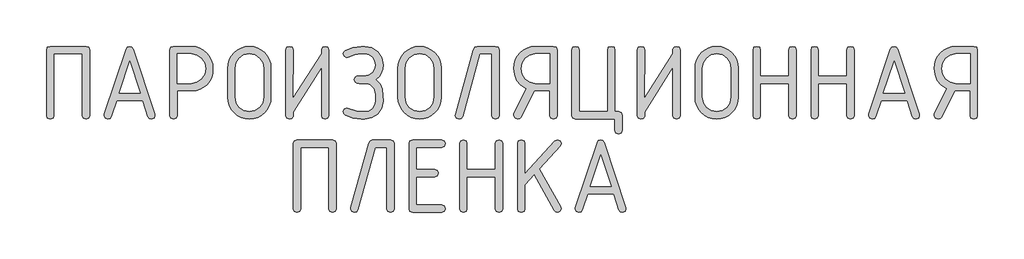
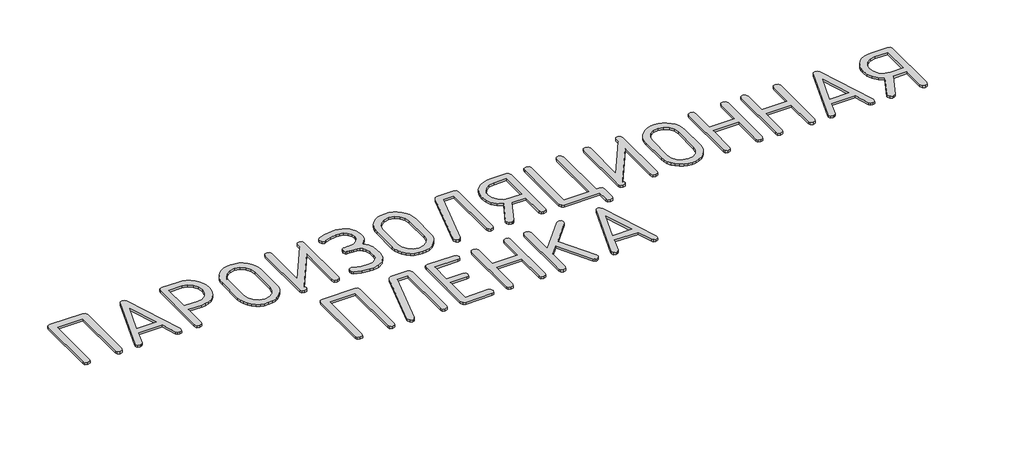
# One storey, part 12 of 42: 1 proxy.
"""IFC4 building model written with IfcOpenShell, lengths in millimetres."""

from ifc_helpers import new_model, si_unit, origin, origin_with_axes, place, context, project, spatial, polyline, outline, extrude, element, save

model = new_model("IFC4")

# Units and contexts
model_context = context("Model", 3, world=origin())
ifc_project = project(units=[si_unit("LENGTHUNIT", "METRE", prefix="MILLI")], contexts=[model_context])

# Site, building, storey
site = spatial("IfcSite", under=ifc_project)
building = spatial("IfcBuilding", under=site)
storey = spatial("IfcBuildingStorey", under=building, Name="Этаж 01", Elevation=0.0)

# Proxy
placement = place(None, origin())
element("IfcBuildingElementProxy", 1, Name="300 мм GOST Common", ObjectType="300 мм GOST Common", at=placement, inside=storey, context=model_context, shape_type="SweptSolid", body=[
    extrude(outline(polyline([(-13719.172933, -44163.4114531), (-13568.5825603, -44163.4114531), (-13557.2640716, -44167.2246338), (-13553.4912421, -44178.6641758), (-13553.4912421, -44452.8903743), (-13557.3649494, -44464.3299163), (-13568.9860714, -44468.143097), (-13580.6071935, -44464.3500919), (-13584.4809008, -44452.9710766), (-13584.4809008, -44194.4011118), (-13703.2745925, -44194.4011118), (-13703.2745925, -44452.9710766), (-13707.1482998, -44464.3500919), (-13718.7694218, -44468.143097), (-13730.3905438, -44464.3299163), (-13734.2642512, -44452.8903743), (-13734.2642512, -44178.6641758), (-13730.4914216, -44167.2246338), (-13719.172933, -44163.4114531)])), origin_with_axes(), (0.0, 0.0, 1.0), 10.0),
    extrude(outline(polyline([(-13280.0720659, -44452.8903743), (-13283.865071, -44464.3299163), (-13295.2440863, -44468.143097), (-13304.3836145, -44465.5000987), (-13309.6897865, -44457.571104), (-13331.4793903, -44390.6689502), (-13440.7502181, -44390.6689502), (-13462.6205241, -44457.571104), (-13467.9266962, -44465.5000987), (-13477.0662244, -44468.143097), (-13488.4452397, -44464.3299163), (-13492.2382448, -44452.8903743), (-13491.5119247, -44448.0482402), (-13401.2868246, -44175.678193), (-13395.4359125, -44166.4781381), (-13386.1148042, -44163.4114531), (-13376.9147493, -44166.3570847), (-13371.2655928, -44175.1939796), (-13280.798386, -44448.0482402), (-13280.0720659, -44452.8903743)]), holes=[polyline([(-13386.1148042, -44226.0363884), (-13430.6624386, -44359.6792915), (-13341.6478721, -44359.6792915), (-13386.1148042, -44226.0363884)])]), origin_with_axes(), (0.0, 0.0, 1.0), 10.0),
    extrude(outline(polyline([(-13202.6786214, -44163.4114531), (-13127.383435, -44163.4114531), (-13109.2481293, -44165.1062001), (-13092.5301567, -44170.190441), (-13077.2295171, -44178.6641758), (-13063.3462106, -44190.5274045), (-13051.8184005, -44204.8117003), (-13043.5842505, -44220.5486363), (-13038.6437605, -44237.7382126), (-13036.9969304, -44256.3804292), (-13038.5580143, -44276.0717748), (-13043.241266, -44293.8262668), (-13051.0466854, -44309.6439051), (-13061.9742725, -44323.5246897), (-13075.3985851, -44334.8230028), (-13090.6941809, -44342.8932264), (-13107.8610597, -44347.7353606), (-13126.8992216, -44349.3494053), (-13186.7802808, -44349.3494053), (-13186.7802808, -44453.2938855), (-13190.6539882, -44464.4307941), (-13202.2751102, -44468.143097), (-13213.8962322, -44464.3299163), (-13217.7699395, -44452.8903743), (-13217.7699395, -44178.6641758), (-13213.99711, -44167.2246338), (-13202.6786214, -44163.4114531)]), holes=[polyline([(-13186.7802808, -44194.4011118), (-13186.7802808, -44318.3597466), (-13127.383435, -44318.3597466), (-13104.3732099, -44313.8706847), (-13085.2165166, -44300.4034991), (-13072.294071, -44280.4196078), (-13067.9865891, -44256.3804292), (-13072.294071, -44232.3412506), (-13085.2165166, -44212.3573594), (-13104.3732099, -44198.8901737), (-13127.383435, -44194.4011118), (-13186.7802808, -44194.4011118)])]), origin_with_axes(), (0.0, 0.0, 1.0), 10.0),
    extrude(outline(polyline([(-12794.244604, -44376.7074634), (-12795.8989998, -44394.9411249), (-12800.8621873, -44411.7927606), (-12809.1341665, -44427.2623705), (-12820.7149374, -44441.3499546), (-12834.6360732, -44453.0719544), (-12849.9291469, -44461.4448114), (-12866.5941587, -44466.4685256), (-12884.6311085, -44468.143097), (-12902.6680583, -44466.4685256), (-12919.3330701, -44461.4448114), (-12934.6261438, -44453.0719544), (-12948.5472796, -44441.3499546), (-12960.1280505, -44427.2623705), (-12968.4000297, -44411.7927606), (-12973.3632172, -44394.9411249), (-12975.017613, -44376.7074634), (-12975.017613, -44254.8470867), (-12973.3632172, -44236.6134252), (-12968.4000297, -44219.7617895), (-12960.1280505, -44204.2921796), (-12948.5472796, -44190.2045955), (-12934.6261438, -44178.4825957), (-12919.3330701, -44170.1097387), (-12902.6680583, -44165.0860245), (-12884.6311085, -44163.4114531), (-12866.4958029, -44165.0784587), (-12849.7778303, -44170.0794754), (-12834.4771907, -44178.4145032), (-12820.5938841, -44190.0835422), (-12809.066074, -44204.1332971), (-12800.831924, -44219.6104728), (-12795.891434, -44236.5150694), (-12794.244604, -44254.8470867), (-12794.244604, -44376.7074634)]), holes=[polyline([(-12825.2342627, -44376.4653567), (-12825.2342627, -44255.0891934), (-12829.5417445, -44231.5644916), (-12842.4641901, -44211.9941993), (-12861.6208834, -44198.7993837), (-12884.6311085, -44194.4011118), (-12907.6413336, -44198.7993837), (-12926.7980269, -44211.9941993), (-12939.7204725, -44231.5644916), (-12944.0279543, -44255.0891934), (-12944.0279543, -44376.4653567), (-12939.7204725, -44399.9900585), (-12926.7980269, -44419.5603508), (-12907.6413336, -44432.7551664), (-12884.6311085, -44437.1534383), (-12861.6208834, -44432.7551664), (-12842.4641901, -44419.5603508), (-12829.5417445, -44399.9900585), (-12825.2342627, -44376.4653567)])]), origin_with_axes(), (0.0, 0.0, 1.0), 10.0),
    extrude(outline(polyline([(-12567.4713203, -44163.4114531), (-12555.4870382, -44167.2246338), (-12551.4922775, -44178.6641758), (-12551.4922775, -44452.8903743), (-12555.3659848, -44464.3299163), (-12566.9871068, -44468.143097), (-12578.6082289, -44464.3299163), (-12582.4819362, -44452.8903743), (-12582.4819362, -44249.7628458), (-12701.2756279, -44437.6376517), (-12701.2756279, -44457.4904018), (-12706.4809221, -44465.4799232), (-12716.2862438, -44468.143097), (-12728.2705259, -44464.3299163), (-12732.2652866, -44452.8903743), (-12732.2652866, -44178.6641758), (-12728.3915792, -44167.2246338), (-12716.7704572, -44163.4114531), (-12705.1493352, -44167.2246338), (-12701.2756279, -44178.6641758), (-12702.1633525, -44381.7917043), (-12582.4819362, -44193.9168984), (-12582.4819362, -44174.0641483), (-12577.276642, -44166.0746269), (-12567.4713203, -44163.4114531)])), origin_with_axes(), (0.0, 0.0, 1.0), 10.0),
    extrude(outline(polyline([(-12415.8318184, -44194.4011118), (-12442.4433808, -44197.7300791), (-12469.4988055, -44207.7169808), (-12476.4391978, -44209.5731322), (-12487.0111908, -44204.9731048), (-12491.6112182, -44194.4011118), (-12489.4120823, -44186.5729949), (-12482.8146745, -44180.5203272), (-12451.3811535, -44167.6886716), (-12415.8318184, -44163.4114531), (-12400.659798, -44163.4114531), (-12371.4355008, -44169.0606096), (-12346.7103531, -44186.0080792), (-12329.8536736, -44210.9854213), (-12324.2347804, -44240.7241954), (-12326.1312829, -44259.0284713), (-12331.8207906, -44275.4463325), (-12341.3033033, -44289.9777789), (-12354.5788212, -44302.6228105), (-12336.8041537, -44320.901867), (-12327.0593586, -44342.9739286), (-12324.2347804, -44392.9286128), (-12329.8536736, -44421.8502767), (-12346.7103531, -44446.1517376), (-12371.4355008, -44462.6452571), (-12400.659798, -44468.143097), (-12415.8318184, -44468.143097), (-12450.9372912, -44463.8658785), (-12482.8146745, -44451.0342229), (-12489.4120823, -44445.1026086), (-12491.6112182, -44437.1534383), (-12487.1322441, -44426.460392), (-12476.4391978, -44421.9814179), (-12469.4988055, -44423.8375693), (-12436.0073775, -44435.2972869), (-12400.659798, -44437.1534383), (-12383.0767983, -44433.9253488), (-12368.4192547, -44424.2410805), (-12358.523143, -44409.896258), (-12355.2244391, -44392.6865061), (-12355.2244391, -44363.0687855), (-12361.1964045, -44340.7949683), (-12369.0144337, -44330.9795588), (-12379.1526521, -44323.968552), (-12391.6110598, -44319.761948), (-12406.3896568, -44318.3597466), (-12415.5897117, -44318.3597466), (-12424.3055533, -44318.3597466), (-12435.0490384, -44317.2400031), (-12441.6161829, -44313.8807725), (-12446.095157, -44302.9456195), (-12441.5354807, -44291.9701154), (-12435.1297407, -44288.5200948), (-12425.0318734, -44287.3700879), (-12416.033574, -44287.3700879), (-12405.9861456, -44287.3700879), (-12384.7110186, -44283.9402429), (-12368.6613614, -44273.6507078), (-12358.5836696, -44258.5795651), (-12355.2244391, -44240.8048976), (-12358.5534063, -44222.9999668), (-12368.540308, -44207.9994386), (-12383.228115, -44197.8006935), (-12400.659798, -44194.4011118), (-12415.8318184, -44194.4011118)])), origin_with_axes(), (0.0, 0.0, 1.0), 10.0),
    extrude(outline(polyline([(-12081.4824539, -44376.7074634), (-12083.1368497, -44394.9411249), (-12088.1000373, -44411.7927606), (-12096.3720165, -44427.2623705), (-12107.9527874, -44441.3499546), (-12121.8739231, -44453.0719544), (-12137.1669969, -44461.4448114), (-12153.8320086, -44466.4685256), (-12171.8689584, -44468.143097), (-12189.9059082, -44466.4685256), (-12206.57092, -44461.4448114), (-12221.8639938, -44453.0719544), (-12235.7851295, -44441.3499546), (-12247.3659004, -44427.2623705), (-12255.6378796, -44411.7927606), (-12260.6010671, -44394.9411249), (-12262.255463, -44376.7074634), (-12262.255463, -44254.8470867), (-12260.6010671, -44236.6134252), (-12255.6378796, -44219.7617895), (-12247.3659004, -44204.2921796), (-12235.7851295, -44190.2045955), (-12221.8639938, -44178.4825957), (-12206.57092, -44170.1097387), (-12189.9059082, -44165.0860245), (-12171.8689584, -44163.4114531), (-12153.7336528, -44165.0784587), (-12137.0156802, -44170.0794754), (-12121.7150406, -44178.4145032), (-12107.831734, -44190.0835422), (-12096.303924, -44204.1332971), (-12088.0697739, -44219.6104728), (-12083.1292839, -44236.5150694), (-12081.4824539, -44254.8470867), (-12081.4824539, -44376.7074634)]), holes=[polyline([(-12112.4721126, -44376.4653567), (-12112.4721126, -44255.0891934), (-12116.7795944, -44231.5644916), (-12129.70204, -44211.9941993), (-12148.8587333, -44198.7993837), (-12171.8689584, -44194.4011118), (-12194.8791835, -44198.7993837), (-12214.0358768, -44211.9941993), (-12226.9583224, -44231.5644916), (-12231.2658043, -44255.0891934), (-12231.2658043, -44376.4653567), (-12226.9583224, -44399.9900585), (-12214.0358768, -44419.5603508), (-12194.8791835, -44432.7551664), (-12171.8689584, -44437.1534383), (-12148.8587333, -44432.7551664), (-12129.70204, -44419.5603508), (-12116.7795944, -44399.9900585), (-12112.4721126, -44376.4653567)])]), origin_with_axes(), (0.0, 0.0, 1.0), 10.0),
    extrude(outline(polyline([(-11930.8113789, -44163.4114531), (-11854.2249568, -44163.4114531), (-11842.6038348, -44167.2246338), (-11838.7301274, -44178.6641758), (-11838.7301274, -44452.8903743), (-11842.6038348, -44464.3299163), (-11854.2249568, -44468.143097), (-11865.8460788, -44464.3500919), (-11869.7197861, -44452.9710766), (-11869.7197861, -44194.4011118), (-11918.867448, -44194.4011118), (-11991.660865, -44457.571104), (-11996.7652814, -44465.5000987), (-12006.1065653, -44468.143097), (-12017.4855806, -44464.3299163), (-12021.2785857, -44452.8903743), (-12020.0680521, -44447.4026223), (-11945.9833993, -44178.6641758), (-11940.0921361, -44167.2246338), (-11930.8113789, -44163.4114531)])), origin_with_axes(), (0.0, 0.0, 1.0), 10.0),
    extrude(outline(polyline([(-11723.9715475, -44339.8265414), (-11747.193616, -44326.1878635), (-11764.5647724, -44306.0930067), (-11773.7043006, -44282.0639159), (-11776.75081, -44254.8470867), (-11775.0964142, -44236.6134252), (-11770.1332267, -44219.7617895), (-11761.8612474, -44204.2921796), (-11750.2804765, -44190.2045955), (-11736.3593408, -44178.4825957), (-11721.066267, -44170.1097387), (-11704.4012553, -44165.0860245), (-11686.3643055, -44163.4114531), (-11611.0691191, -44163.4114531), (-11599.7506305, -44167.2246338), (-11595.9778009, -44178.6641758), (-11595.9778009, -44452.8903743), (-11599.8515083, -44464.3299163), (-11611.4726303, -44468.143097), (-11623.0937523, -44464.4307941), (-11626.9674596, -44453.2938855), (-11626.9674596, -44349.3494053), (-11691.2871419, -44349.3494053), (-11745.7611513, -44459.8307667), (-11751.7936435, -44466.0650144), (-11760.5296605, -44468.143097), (-11771.8279736, -44463.5430695), (-11776.75081, -44452.8903743), (-11776.75081, -44445.949982), (-11723.9715475, -44339.8265414)]), holes=[polyline([(-11626.9674596, -44194.4011118), (-11686.3643055, -44194.4011118), (-11709.3745306, -44198.8901737), (-11728.5312239, -44212.3573594), (-11741.4536695, -44232.3412506), (-11745.7611513, -44256.3804292), (-11741.4536695, -44280.4196078), (-11728.5312239, -44300.4034991), (-11709.3745306, -44313.8706847), (-11686.3643055, -44318.3597466), (-11626.9674596, -44318.3597466), (-11626.9674596, -44194.4011118)])]), origin_with_axes(), (0.0, 0.0, 1.0), 10.0),
    extrude(outline(polyline([(-11353.2254745, -44468.143097), (-11518.9071654, -44468.143097), (-11530.225654, -44464.3299163), (-11533.9984835, -44452.8903743), (-11533.9984835, -44178.6641758), (-11530.1247762, -44167.2246338), (-11518.5036542, -44163.4114531), (-11506.8825322, -44167.2044582), (-11503.0088248, -44178.5834735), (-11503.0088248, -44437.1534383), (-11384.2151332, -44437.1534383), (-11384.2151332, -44178.5834735), (-11380.3414258, -44167.2044582), (-11368.7203038, -44163.4114531), (-11357.0991818, -44167.2044582), (-11353.2254745, -44178.5834735), (-11353.2254745, -44437.1534383), (-11337.7306451, -44437.1534383), (-11326.1095231, -44441.0271456), (-11322.2358158, -44452.6482676), (-11322.2358158, -44514.627585), (-11326.1095231, -44526.248707), (-11337.7306451, -44530.1224144), (-11349.3517671, -44526.248707), (-11353.2254745, -44514.627585), (-11353.2254745, -44468.143097)])), origin_with_axes(), (0.0, 0.0, 1.0), 10.0),
    extrude(outline(polyline([(-11095.4625321, -44163.4114531), (-11083.47825, -44167.2246338), (-11079.4834893, -44178.6641758), (-11079.4834893, -44452.8903743), (-11083.3571966, -44464.3299163), (-11094.9783186, -44468.143097), (-11106.5994407, -44464.3299163), (-11110.473148, -44452.8903743), (-11110.473148, -44249.7628458), (-11229.2668397, -44437.6376517), (-11229.2668397, -44457.4904018), (-11234.4721339, -44465.4799232), (-11244.2774556, -44468.143097), (-11256.2617377, -44464.3299163), (-11260.2564984, -44452.8903743), (-11260.2564984, -44178.6641758), (-11256.382791, -44167.2246338), (-11244.761669, -44163.4114531), (-11233.140547, -44167.2246338), (-11229.2668397, -44178.6641758), (-11230.1545643, -44381.7917043), (-11110.473148, -44193.9168984), (-11110.473148, -44174.0641483), (-11105.2678538, -44166.0746269), (-11095.4625321, -44163.4114531)])), origin_with_axes(), (0.0, 0.0, 1.0), 10.0),
    extrude(outline(polyline([(-10836.7311628, -44376.7074634), (-10838.3855587, -44394.9411249), (-10843.3487462, -44411.7927606), (-10851.6207254, -44427.2623705), (-10863.2014963, -44441.3499546), (-10877.122632, -44453.0719544), (-10892.4157058, -44461.4448114), (-10909.0807176, -44466.4685256), (-10927.1176674, -44468.143097), (-10945.1546171, -44466.4685256), (-10961.8196289, -44461.4448114), (-10977.1127027, -44453.0719544), (-10991.0338384, -44441.3499546), (-11002.6146093, -44427.2623705), (-11010.8865885, -44411.7927606), (-11015.8497761, -44394.9411249), (-11017.5041719, -44376.7074634), (-11017.5041719, -44254.8470867), (-11015.8497761, -44236.6134252), (-11010.8865885, -44219.7617895), (-11002.6146093, -44204.2921796), (-10991.0338384, -44190.2045955), (-10977.1127027, -44178.4825957), (-10961.8196289, -44170.1097387), (-10945.1546171, -44165.0860245), (-10927.1176674, -44163.4114531), (-10908.9823617, -44165.0784587), (-10892.2643891, -44170.0794754), (-10876.9637495, -44178.4145032), (-10863.0804429, -44190.0835422), (-10851.5526329, -44204.1332971), (-10843.3184828, -44219.6104728), (-10838.3779928, -44236.5150694), (-10836.7311628, -44254.8470867), (-10836.7311628, -44376.7074634)]), holes=[polyline([(-10867.7208215, -44376.4653567), (-10867.7208215, -44255.0891934), (-10872.0283034, -44231.5644916), (-10884.9507489, -44211.9941993), (-10904.1074423, -44198.7993837), (-10927.1176674, -44194.4011118), (-10950.1278925, -44198.7993837), (-10969.2845858, -44211.9941993), (-10982.2070313, -44231.5644916), (-10986.5145132, -44255.0891934), (-10986.5145132, -44376.4653567), (-10982.2070313, -44399.9900585), (-10969.2845858, -44419.5603508), (-10950.1278925, -44432.7551664), (-10927.1176674, -44437.1534383), (-10904.1074423, -44432.7551664), (-10884.9507489, -44419.5603508), (-10872.0283034, -44399.9900585), (-10867.7208215, -44376.4653567)])]), origin_with_axes(), (0.0, 0.0, 1.0), 10.0),
    extrude(outline(polyline([(-10774.7518454, -44452.8903743), (-10774.7518454, -44178.6641758), (-10770.8781381, -44167.2246338), (-10759.2570161, -44163.4114531), (-10747.6358941, -44167.2851604), (-10743.7621867, -44178.9062825), (-10743.7621867, -44287.3700879), (-10624.968495, -44287.3700879), (-10624.968495, -44178.9062825), (-10621.0947877, -44167.2851604), (-10609.4736657, -44163.4114531), (-10597.8525437, -44167.2246338), (-10593.9788363, -44178.6641758), (-10593.9788363, -44452.8903743), (-10597.8525437, -44464.3299163), (-10609.4736657, -44468.143097), (-10621.0947877, -44464.390443), (-10624.968495, -44453.1324811), (-10624.968495, -44318.3597466), (-10743.7621867, -44318.3597466), (-10743.7621867, -44453.1324811), (-10747.6358941, -44464.390443), (-10759.2570161, -44468.143097), (-10770.8781381, -44464.3299163), (-10774.7518454, -44452.8903743)])), origin_with_axes(), (0.0, 0.0, 1.0), 10.0),
    extrude(outline(polyline([(-10531.9995189, -44452.8903743), (-10531.9995189, -44178.6641758), (-10528.1258116, -44167.2246338), (-10516.5046896, -44163.4114531), (-10504.8835676, -44167.2851604), (-10501.0098602, -44178.9062825), (-10501.0098602, -44287.3700879), (-10382.2161686, -44287.3700879), (-10382.2161686, -44178.9062825), (-10378.3424612, -44167.2851604), (-10366.7213392, -44163.4114531), (-10355.1002172, -44167.2246338), (-10351.2265099, -44178.6641758), (-10351.2265099, -44452.8903743), (-10355.1002172, -44464.3299163), (-10366.7213392, -44468.143097), (-10378.3424612, -44464.390443), (-10382.2161686, -44453.1324811), (-10382.2161686, -44318.3597466), (-10501.0098602, -44318.3597466), (-10501.0098602, -44453.1324811), (-10504.8835676, -44464.390443), (-10516.5046896, -44468.143097), (-10528.1258116, -44464.3299163), (-10531.9995189, -44452.8903743)])), origin_with_axes(), (0.0, 0.0, 1.0), 10.0),
    extrude(outline(polyline([(-10077.8073336, -44452.8903743), (-10081.6003387, -44464.3299163), (-10092.979354, -44468.143097), (-10102.1188823, -44465.5000987), (-10107.4250543, -44457.571104), (-10129.2146581, -44390.6689502), (-10238.4854859, -44390.6689502), (-10260.3557919, -44457.571104), (-10265.6619639, -44465.5000987), (-10274.8014922, -44468.143097), (-10286.1805075, -44464.3299163), (-10289.9735126, -44452.8903743), (-10289.2471925, -44448.0482402), (-10199.0220924, -44175.678193), (-10193.1711803, -44166.4781381), (-10183.850072, -44163.4114531), (-10174.6500171, -44166.3570847), (-10169.0008605, -44175.1939796), (-10078.5336538, -44448.0482402), (-10077.8073336, -44452.8903743)]), holes=[polyline([(-10183.850072, -44226.0363884), (-10228.3977064, -44359.6792915), (-10139.3831399, -44359.6792915), (-10183.850072, -44226.0363884)])]), origin_with_axes(), (0.0, 0.0, 1.0), 10.0),
    extrude(outline(polyline([(-9962.7259448, -44339.8265414), (-9985.9480133, -44326.1878635), (-10003.3191696, -44306.0930067), (-10012.4586979, -44282.0639159), (-10015.5052073, -44254.8470867), (-10013.8508115, -44236.6134252), (-10008.8876239, -44219.7617895), (-10000.6156447, -44204.2921796), (-9989.0348738, -44190.2045955), (-9975.1137381, -44178.4825957), (-9959.8206643, -44170.1097387), (-9943.1556525, -44165.0860245), (-9925.1187028, -44163.4114531), (-9849.8235164, -44163.4114531), (-9838.5050278, -44167.2246338), (-9834.7321982, -44178.6641758), (-9834.7321982, -44452.8903743), (-9838.6059056, -44464.3299163), (-9850.2270276, -44468.143097), (-9861.8481496, -44464.4307941), (-9865.7218569, -44453.2938855), (-9865.7218569, -44349.3494053), (-9930.0415392, -44349.3494053), (-9984.5155486, -44459.8307667), (-9990.5480407, -44466.0650144), (-9999.2840578, -44468.143097), (-10010.5823709, -44463.5430695), (-10015.5052073, -44452.8903743), (-10015.5052073, -44445.949982), (-9962.7259448, -44339.8265414)]), holes=[polyline([(-9865.7218569, -44194.4011118), (-9925.1187028, -44194.4011118), (-9948.1289278, -44198.8901737), (-9967.2856212, -44212.3573594), (-9980.2080667, -44232.3412506), (-9984.5155486, -44256.3804292), (-9980.2080667, -44280.4196078), (-9967.2856212, -44300.4034991), (-9948.1289278, -44313.8706847), (-9925.1187028, -44318.3597466), (-9865.7218569, -44318.3597466), (-9865.7218569, -44194.4011118)])]), origin_with_axes(), (0.0, 0.0, 1.0), 10.0),
    extrude(outline(polyline([(-12686.1843097, -44555.4599443), (-12535.593937, -44555.4599443), (-12524.2754483, -44559.273125), (-12520.5026188, -44570.7126669), (-12520.5026188, -44844.9388655), (-12524.3763261, -44856.3784075), (-12535.9974481, -44860.1915882), (-12547.6185702, -44856.3985831), (-12551.4922775, -44845.0195678), (-12551.4922775, -44586.449603), (-12670.2859692, -44586.449603), (-12670.2859692, -44845.0195678), (-12674.1596765, -44856.3985831), (-12685.7807985, -44860.1915882), (-12697.4019205, -44856.3784075), (-12701.2756279, -44844.9388655), (-12701.2756279, -44570.7126669), (-12697.5027983, -44559.273125), (-12686.1843097, -44555.4599443)])), origin_with_axes(), (0.0, 0.0, 1.0), 10.0),
    extrude(outline(polyline([(-12369.8315438, -44555.4599443), (-12293.2451217, -44555.4599443), (-12281.6239997, -44559.273125), (-12277.7502923, -44570.7126669), (-12277.7502923, -44844.9388655), (-12281.6239997, -44856.3784075), (-12293.2451217, -44860.1915882), (-12304.8662437, -44856.3985831), (-12308.739951, -44845.0195678), (-12308.739951, -44586.449603), (-12357.8876129, -44586.449603), (-12430.6810299, -44849.6195952), (-12435.7854463, -44857.5485899), (-12445.1267302, -44860.1915882), (-12456.5057455, -44856.3784075), (-12460.2987506, -44844.9388655), (-12459.0882171, -44839.4511135), (-12385.0035642, -44570.7126669), (-12379.112301, -44559.273125), (-12369.8315438, -44555.4599443)])), origin_with_axes(), (0.0, 0.0, 1.0), 10.0),
    extrude(outline(polyline([(-12215.7709749, -44844.9388655), (-12215.7709749, -44570.7126669), (-12211.8972676, -44559.273125), (-12200.2761456, -44555.4599443), (-12078.7385779, -44555.4599443), (-12067.3595626, -44559.3336516), (-12063.5665575, -44570.9547736), (-12067.3595626, -44582.5758957), (-12078.7385779, -44586.449603), (-12184.7813162, -44586.449603), (-12184.7813162, -44679.4185791), (-12109.0019164, -44679.4185791), (-12097.6834278, -44683.2922864), (-12093.9105983, -44694.9134084), (-12097.6834278, -44706.5345305), (-12109.0019164, -44710.4082378), (-12184.7813162, -44710.4082378), (-12184.7813162, -44829.2019295), (-12078.7385779, -44829.2019295), (-12067.3595626, -44833.0756368), (-12063.5665575, -44844.6967588), (-12067.3595626, -44856.3178808), (-12078.7385779, -44860.1915882), (-12200.2761456, -44860.1915882), (-12211.8972676, -44856.3784075), (-12215.7709749, -44844.9388655)])), origin_with_axes(), (0.0, 0.0, 1.0), 10.0),
    extrude(outline(polyline([(-12004.0083071, -44844.9388655), (-12004.0083071, -44570.7126669), (-12000.1345998, -44559.273125), (-11988.5134778, -44555.4599443), (-11976.8923558, -44559.3336516), (-11973.0186484, -44570.9547736), (-11973.0186484, -44679.4185791), (-11854.2249568, -44679.4185791), (-11854.2249568, -44570.9547736), (-11850.3512494, -44559.3336516), (-11838.7301274, -44555.4599443), (-11827.1090054, -44559.273125), (-11823.2352981, -44570.7126669), (-11823.2352981, -44844.9388655), (-11827.1090054, -44856.3784075), (-11838.7301274, -44860.1915882), (-11850.3512494, -44856.4389342), (-11854.2249568, -44845.1809722), (-11854.2249568, -44710.4082378), (-11973.0186484, -44710.4082378), (-11973.0186484, -44845.1809722), (-11976.8923558, -44856.4389342), (-11988.5134778, -44860.1915882), (-12000.1345998, -44856.3784075), (-12004.0083071, -44844.9388655)])), origin_with_axes(), (0.0, 0.0, 1.0), 10.0),
    extrude(outline(polyline([(-11691.0450352, -44700.8853739), (-11730.266322, -44744.303177), (-11730.266322, -44844.9388655), (-11734.1400293, -44856.3784075), (-11745.7611513, -44860.1915882), (-11757.3822733, -44856.3784075), (-11761.2559807, -44844.9388655), (-11761.2559807, -44570.7126669), (-11757.3822733, -44559.273125), (-11745.7611513, -44555.4599443), (-11734.1400293, -44559.273125), (-11730.266322, -44570.7126669), (-11730.266322, -44698.7871158), (-11605.4199626, -44560.5441852), (-11593.8795428, -44555.4599443), (-11582.5610542, -44559.273125), (-11578.7882246, -44570.7126669), (-11582.9040387, -44581.1232554), (-11669.4168359, -44676.9168098), (-11580.8057805, -44837.3528553), (-11578.7882246, -44844.9388655), (-11583.4689543, -44855.4705074), (-11593.8795428, -44860.1915882), (-11601.8690642, -44858.1740323), (-11607.4375185, -44852.1213645), (-11691.0450352, -44700.8853739)])), origin_with_axes(), (0.0, 0.0, 1.0), 10.0),
    extrude(outline(polyline([(-11307.0637954, -44844.9388655), (-11310.8568005, -44856.3784075), (-11322.2358158, -44860.1915882), (-11331.375344, -44857.5485899), (-11336.681516, -44849.6195952), (-11358.4711198, -44782.7174414), (-11467.7419476, -44782.7174414), (-11489.6122536, -44849.6195952), (-11494.9184257, -44857.5485899), (-11504.0579539, -44860.1915882), (-11515.4369692, -44856.3784075), (-11519.2299743, -44844.9388655), (-11518.5036542, -44840.0967314), (-11428.2785541, -44567.7266842), (-11422.427642, -44558.5266293), (-11413.1065337, -44555.4599443), (-11403.9064788, -44558.4055759), (-11398.2573223, -44567.2424708), (-11307.7901155, -44840.0967314), (-11307.0637954, -44844.9388655)]), holes=[polyline([(-11413.1065337, -44618.0848796), (-11457.6541681, -44751.7277827), (-11368.6396016, -44751.7277827), (-11413.1065337, -44618.0848796)])]), origin_with_axes(), (0.0, 0.0, 1.0), 10.0),
])

save(model, "model.ifc")
